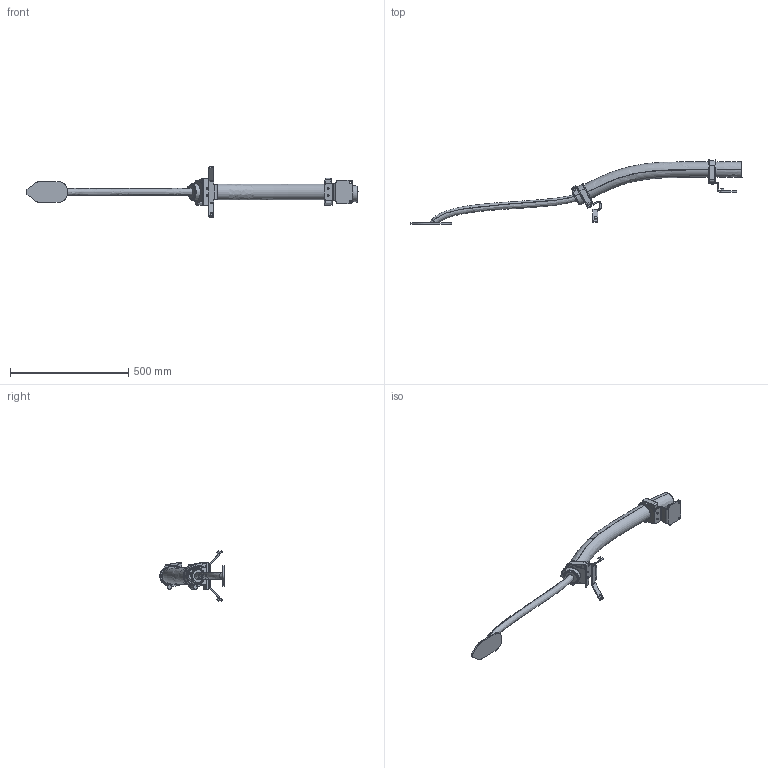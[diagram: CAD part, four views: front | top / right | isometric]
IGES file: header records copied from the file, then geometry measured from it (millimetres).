
Start section: SolidWorks IGES file using analytic representation for surfaces
Global section: file name: C:\Users\SEJAOLS6\OneDrive - ABB\Documents\SAP\7720\7720_Lightweight_models\IRB7720-MH3_510kg-330_OC_01_SW_J\IRB7710-MH3_510kg-330_OC_01_IGES_J\IRB77X0-MH3_All-330_OC_00_LINK04_CABLE.igs; native system: SolidWorks 2024; preprocessor: SolidWorks 2024; author: SEJAOLS6; date: 260127.082524; units: millimetre
Bounding box: 1403 x 271.45 x 214.13 mm (x, y, z)
Surface area: 343333.1 mm2 (no closed solid volume)
Topology: 0 solids, 0 shells, 320 faces, 4802 edges, 4801 vertices
Faces by surface type: bspline 207, revolution 113
